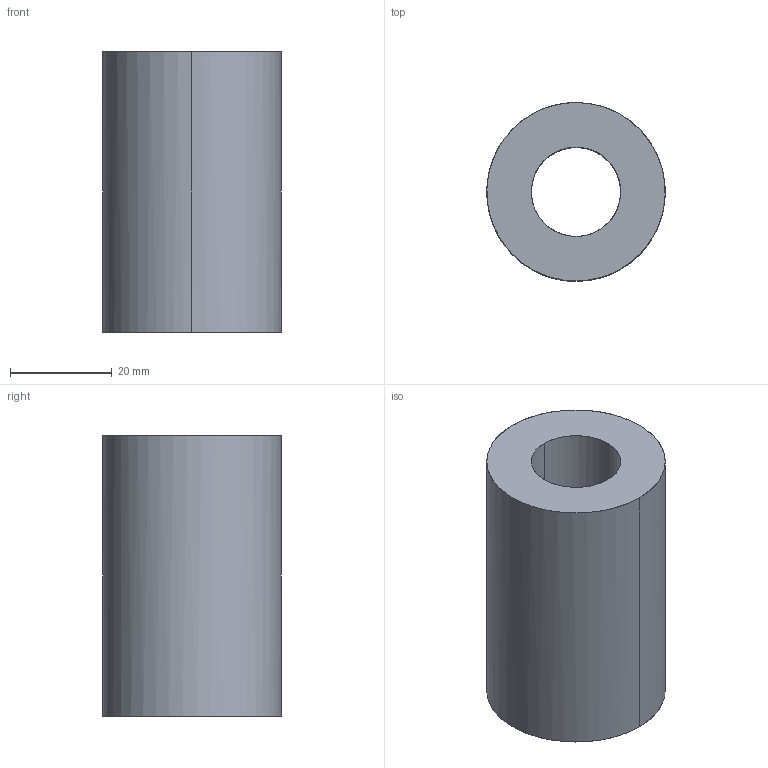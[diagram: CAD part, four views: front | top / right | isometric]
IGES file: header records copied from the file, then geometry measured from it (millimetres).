
Global section: file name: E:\UnigraphicsGraphicData\MISUMI_PRESS-PARTS\IGES\3d_swv35-55_00760_r00.igs; native system: NX V5.0; preprocessor: UGS NX IGES V5.0; author: MISUMI; date: 20110105.163300; units: millimetre
Bounding box: 35 x 35 x 55 mm (x, y, z)
Surface area: 10513.3 mm2 (no closed solid volume)
Topology: 0 solids, 0 shells, 6 faces, 64 edges, 64 vertices
Faces by surface type: bspline 6
